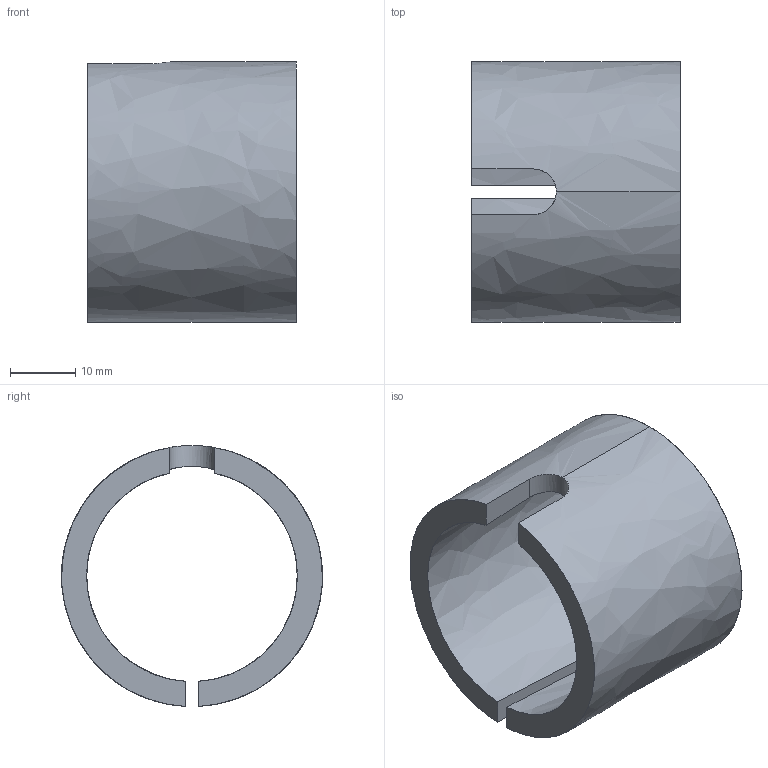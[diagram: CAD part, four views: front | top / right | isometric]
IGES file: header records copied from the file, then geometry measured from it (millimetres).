
Start section: Comment
Global section: file name: JF6H65_Sleeve.igs; native system:  By Spatial Corp.; preprocessor: XPlus GENERIC/IGES 3.0; author: Author; organization: Title; date: 20080526.100846; units: millimetre
Bounding box: 32 x 40 x 39.98 mm (x, y, z)
Surface area: 8099.1 mm2 (no closed solid volume)
Topology: 0 solids, 0 shells, 11 faces, 64 edges, 64 vertices
Faces by surface type: bspline 11
